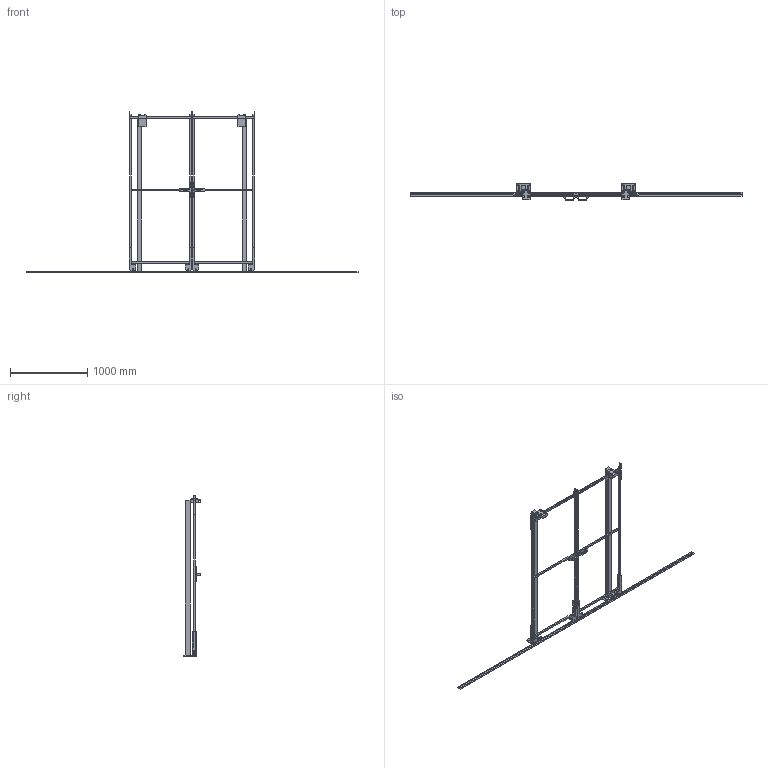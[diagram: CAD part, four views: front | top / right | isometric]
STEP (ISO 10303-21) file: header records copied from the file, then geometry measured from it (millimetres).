
FILE_DESCRIPTION(/* description */ (''),/* implementation_level */ '2;1');
FILE_NAME(/* name */ 'C:\SafeGuarding\ELABORATI\Drawing4_2025-05-13-13-01-41.stp',/* time_stamp */ '2025-05-13T13:01:42+02:00',/* author */ ('admin'),/* organization */ (''),/* preprocessor_version */ 'ST-DEVELOPER v18.1',/* originating_system */ 'AutoCAD Mechanical',/* authorisation */ '');
FILE_SCHEMA (('AUTOMOTIVE_DESIGN { 1 0 10303 214 3 1 1 }'));
Length unit declared in the file: millimetre
Products named in the file (3): Product; R_VFPA.REPE20.08001900; P_VFMA.V260SDU.2020
Assembly tree (4 placements, depth 2):
  Product
    R_VFPA.REPE20.08001900  x2
    P_VFMA.V260SDU.2020  x2
Bounding box: 4300 x 211.41 x 2090 mm (x, y, z)
Volume: 22572117.8 mm3; surface area: 3717947.8 mm2
Topology: 54 solids, 76 shells, 524 faces, 1574 edges, 1429 vertices
Faces by surface type: plane 460, cylinder 56, cone 8
Full cylindrical faces by diameter (mm): 9 x8, 11 x8, 13 x8, 14 x4, 18 x8, 30 x4, 36 x8, 58 x8
Entity records: 15658 total; most frequent: CARTESIAN_POINT 3255, DIRECTION 2371, ORIENTED_EDGE 2320, EDGE_CURVE 1258, LINE 1021, VECTOR 1021, VERTEX_POINT 920, AXIS2_PLACEMENT_3D 675
